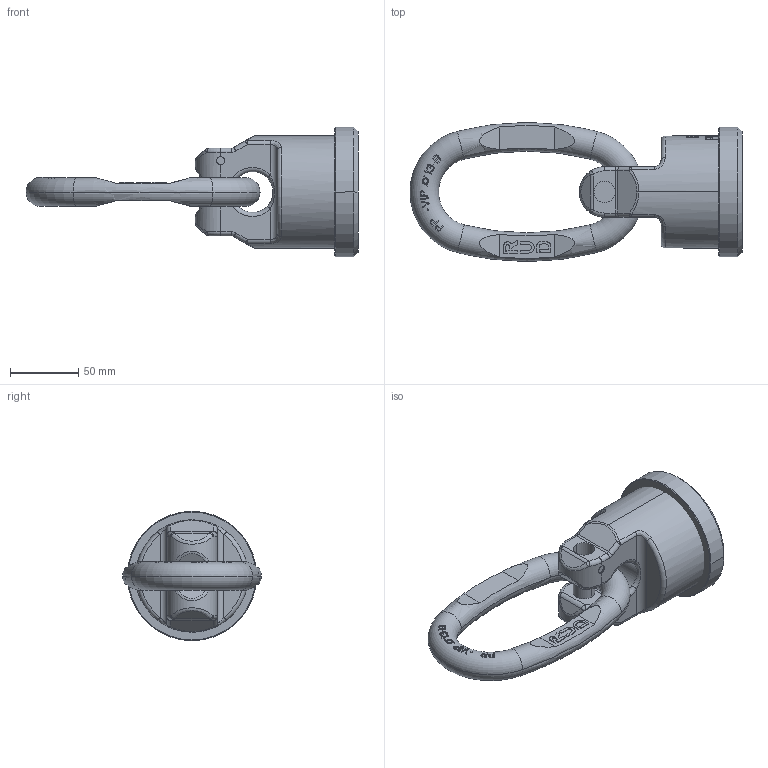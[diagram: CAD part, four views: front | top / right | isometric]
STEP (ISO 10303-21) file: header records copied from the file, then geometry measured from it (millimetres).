
FILE_DESCRIPTION((''),'2;1');
FILE_NAME('001-M31395-P-40_ASM','2018-04-26T',('Anja.Joas'),(''),'PRO/ENGINEER BY PARAMETRIC TECHNOLOGY CORPORATION, 2011490','PRO/ENGINEER BY PARAMETRIC TECHNOLOGY CORPORATION, 2011490','');
FILE_SCHEMA(('CONFIG_CONTROL_DESIGN'));
Length unit declared in the file: millimetre
Products named in the file (4): 001-M31395-P-20; 001-M31395-P-50; 001-M31290-004; 001-M31395-P-40_ASM
Assembly tree (3 placements, depth 2):
  001-M31395-P-40_ASM
    001-M31395-P-20
    001-M31395-P-50
    001-M31290-004
Bounding box: 244 x 102 x 95 mm (x, y, z)
Volume: 588549.7 mm3; surface area: 79790.1 mm2
Topology: 3 solids, 3 shells, 602 faces, 1595 edges, 1036 vertices
Faces by surface type: plane 467, cylinder 66, torus 32, bspline 26, cone 6, sphere 4, extrusion 1
Entity records: 20944 total; most frequent: CARTESIAN_POINT 6733, ORIENTED_EDGE 3190, DIRECTION 2540, EDGE_CURVE 1595, VERTEX_POINT 1036, VECTOR 848, LINE 847, AXIS2_PLACEMENT_3D 846
